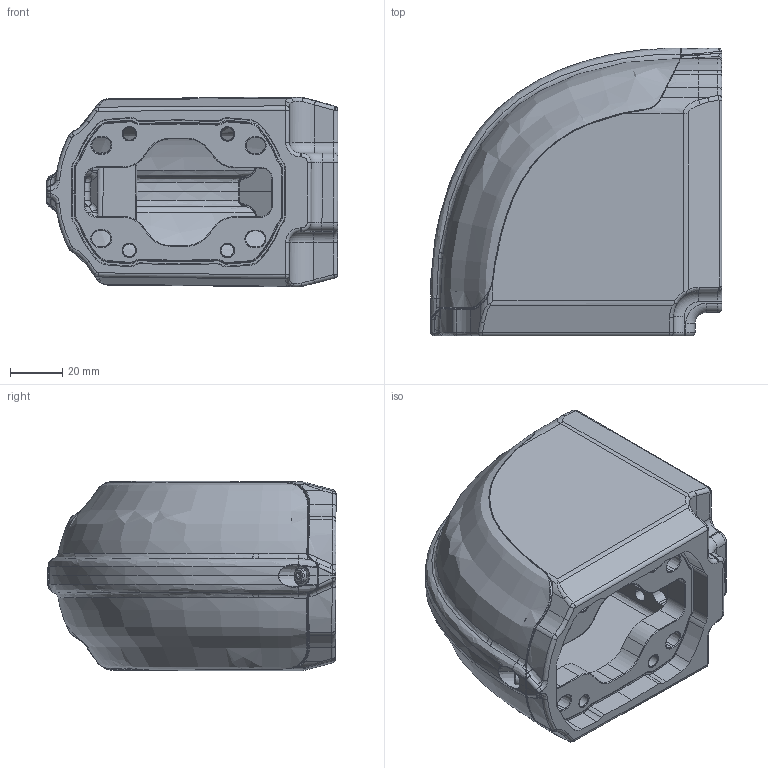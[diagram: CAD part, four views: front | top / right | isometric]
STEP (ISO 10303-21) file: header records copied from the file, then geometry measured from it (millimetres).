
FILE_DESCRIPTION (( 'STEP AP203' ), '1' );
FILE_NAME ('TP.060.5300.STEP', '2026-09-30T09:54:52', ( '' ), ( '' ), 'SwSTEP 2.0', 'SolidWorks 2015', '' );
FILE_SCHEMA (( 'CONFIG_CONTROL_DESIGN' ));
Products named in the file (4): TP.060.Kapak; kapak vida; TP.060.5300
Assembly tree (4 placements, depth 2):
  TP.060.5300
    TP.060.5300
    TP.060.Kapak
    kapak vida  x2
Bounding box: 111.64 x 110.22 x 72.6 mm (x, y, z)
Volume: 23818.7 mm3; surface area: 77738.8 mm2
Topology: 3 solids, 6 shells, 2495 faces, 6291 edges, 3797 vertices
Faces by surface type: bspline 1803, cylinder 299, plane 278, torus 62, cone 45, sphere 8
Entity records: 183943 total; most frequent: CARTESIAN_POINT 139683, ORIENTED_EDGE 12432, EDGE_CURVE 6216, B_SPLINE_CURVE_WITH_KNOTS 4735, VERTEX_POINT 3759, DIRECTION 3093, EDGE_LOOP 2513, ADVANCED_FACE 2467
